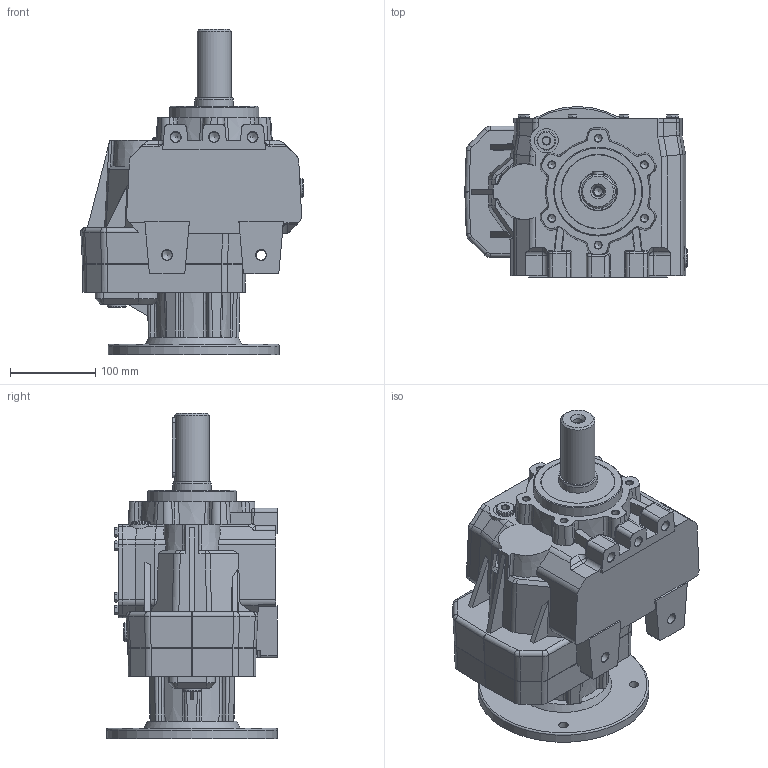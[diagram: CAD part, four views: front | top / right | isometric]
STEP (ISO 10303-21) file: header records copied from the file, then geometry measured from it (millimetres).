
FILE_DESCRIPTION( ( 'Unknown' ), '1' );
FILE_NAME( 'E:/services/configuratordownloads/customers/HYDROMEC/COASSIALI/download/988B83B8FBF8E679089C9415D275DB/STEP/988B83B8FBF8E679089C9415D275DB.3d.stp', 'Unknown', ( 'Unknown' ), ( 'Unknown' ), 'PSStep 10.1', 'Unknown', ' ' );
FILE_SCHEMA( ( 'AUTOMOTIVE_DESIGN { 1 0 10303 214 1 1 1 1 }' ) );
Length unit declared in the file: millimetre
Products named in the file (1): C818800
Bounding box: 260.12 x 200 x 380.5 mm (x, y, z)
Volume: 7474722.7 mm3; surface area: 376556.4 mm2
Topology: 1 solids, 30 shells, 923 faces, 2231 edges, 1433 vertices
Faces by surface type: plane 476, cylinder 242, cone 129, bspline 38, torus 35, sphere 3
Full cylindrical faces by diameter (mm): 4.917 x2, 6 x8, 7 x8, 8 x8, 8.376 x6, 8.5 x4, 8.9 x8, 9.5 x8, 10.106 x2, 11 x4, 11.835 x5, 12.5 x1, 13 x8, 14.3 x4, 14.95 x4, 17 x4, 22 x8, 25 x1, 28 x3, 40 x1, 44.999 x1, 45 x1, 50 x1, 68 x1, 75 x1, 104 x1, 130 x1, 200 x1
Entity records: 34401 total; most frequent: CARTESIAN_POINT 6950, DIRECTION 4132, ORIENTED_EDGE 3828, EDGE_CURVE 1914, AXIS2_PLACEMENT_3D 1592, VERTEX_POINT 1335, EDGE_LOOP 1245, FACE_OUTER_BOUND 1063
